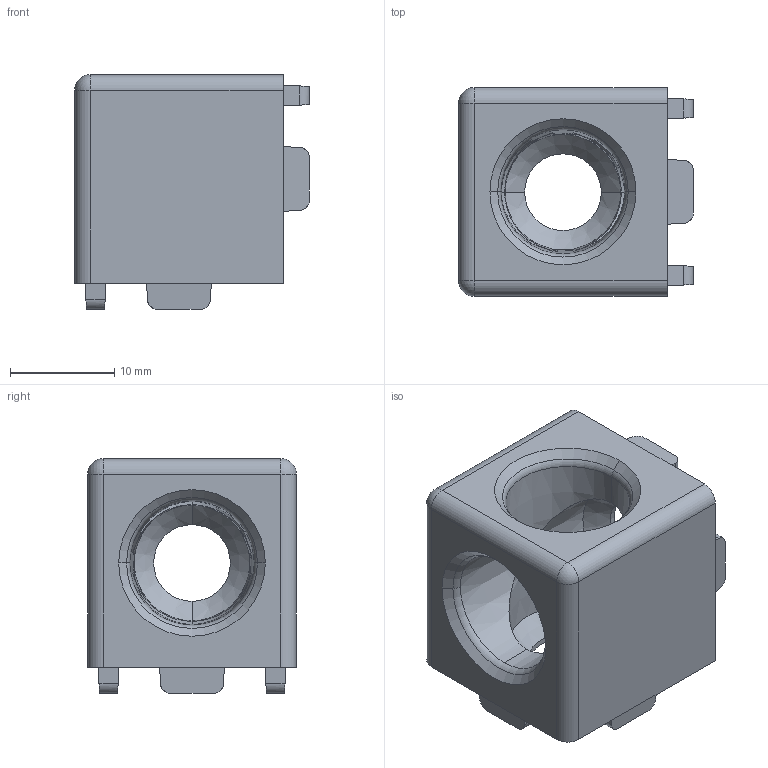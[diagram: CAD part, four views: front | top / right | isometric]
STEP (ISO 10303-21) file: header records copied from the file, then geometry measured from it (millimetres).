
FILE_DESCRIPTION (( 'STEP AP214' ), '1' );
FILE_NAME ('093ww201n06r.STEP', '2013-02-08T16:22:15', ( '' ), ( '' ), 'SwSTEP 2.0', 'SolidWorks 2012', '' );
FILE_SCHEMA (( 'AUTOMOTIVE_DESIGN' ));
Length unit declared in the file: millimetre
Products named in the file (1): 093ww201n06r
Bounding box: 22.5 x 20 x 22.5 mm (x, y, z)
Volume: 4892.1 mm3; surface area: 3294 mm2
Topology: 1 solids, 1 shells, 179 faces, 423 edges, 248 vertices
Faces by surface type: cylinder 69, plane 64, sphere 26, cone 16, torus 4
Entity records: 5241 total; most frequent: CARTESIAN_POINT 1201, ORIENTED_EDGE 842, DIRECTION 837, EDGE_CURVE 421, AXIS2_PLACEMENT_3D 292, LINE 253, VECTOR 253, VERTEX_POINT 248
